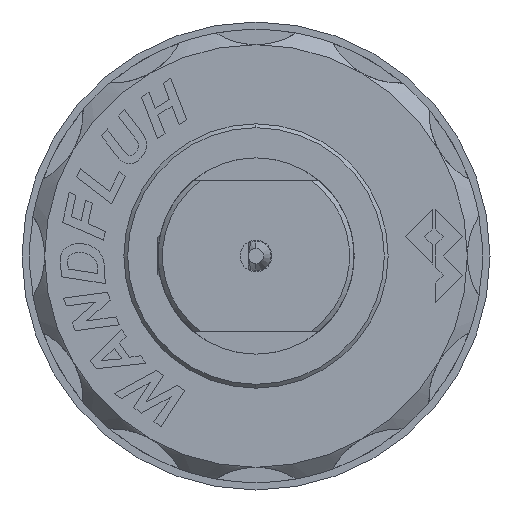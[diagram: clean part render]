
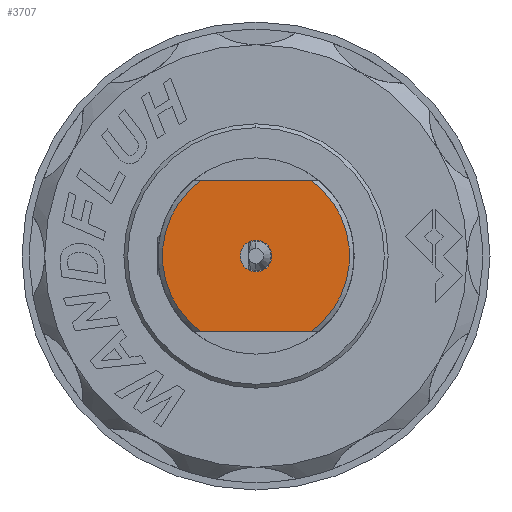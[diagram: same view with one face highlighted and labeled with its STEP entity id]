
A CAD part, left-side view. The second image highlights one B-rep face of the part: STEP entity #3707.
In plain terms, the highlighted planar face has unit normal (-1, 0, 0).
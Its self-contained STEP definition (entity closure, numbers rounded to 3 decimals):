
#368 = ORIENTED_EDGE ( 'NONE', *, *, #7774, .F. ) ;
#919 = CARTESIAN_POINT ( 'NONE',  ( -90.7, 0., 0. ) ) ;
#1121 = CIRCLE ( 'NONE', #19501, 1.05 ) ;
#1345 = LINE ( 'NONE', #1744, #15772 ) ;
#1375 = EDGE_LOOP ( 'NONE', ( #8697, #11638, #14373, #14801 ) ) ;
#1697 = VERTEX_POINT ( 'NONE', #11723 ) ;
#1744 = CARTESIAN_POINT ( 'NONE',  ( -90.7, 6.5, 5. ) ) ;
#1881 = CARTESIAN_POINT ( 'NONE',  ( -90.7, 0., -1.05 ) ) ;
#2008 = CIRCLE ( 'NONE', #9350, 6.2 ) ;
#2704 = EDGE_CURVE ( 'NONE', #16998, #13420, #5752, .T. ) ;
#3614 = CARTESIAN_POINT ( 'NONE',  ( -90.7, 0., 0. ) ) ;
#3707 = ADVANCED_FACE ( 'NONE', ( #22710, #20821 ), #24981, .F. ) ;
#3827 = EDGE_CURVE ( 'NONE', #24879, #14558, #1345, .T. ) ;
#3873 = AXIS2_PLACEMENT_3D ( 'NONE', #3614, #17609, #21396 ) ;
#4608 = DIRECTION ( 'NONE',  ( -1., 0., 0. ) ) ;
#4872 = VERTEX_POINT ( 'NONE', #1881 ) ;
#4967 = DIRECTION ( 'NONE',  ( -1., 0., 0. ) ) ;
#5677 = EDGE_CURVE ( 'NONE', #13420, #14558, #6777, .T. ) ;
#5710 = DIRECTION ( 'NONE',  ( 0., -1., 0. ) ) ;
#5752 = LINE ( 'NONE', #13858, #24245 ) ;
#6777 = CIRCLE ( 'NONE', #15831, 6.2 ) ;
#7774 = EDGE_CURVE ( 'NONE', #4872, #1697, #18300, .T. ) ;
#7872 = DIRECTION ( 'NONE',  ( 0., -1., 0. ) ) ;
#8697 = ORIENTED_EDGE ( 'NONE', *, *, #2704, .T. ) ;
#8904 = DIRECTION ( 'NONE',  ( 0., 0., -1. ) ) ;
#9350 = AXIS2_PLACEMENT_3D ( 'NONE', #14296, #22513, #14462 ) ;
#11638 = ORIENTED_EDGE ( 'NONE', *, *, #5677, .T. ) ;
#11723 = CARTESIAN_POINT ( 'NONE',  ( -90.7, 0., 1.05 ) ) ;
#13420 = VERTEX_POINT ( 'NONE', #17642 ) ;
#13858 = CARTESIAN_POINT ( 'NONE',  ( -90.7, 6.5, -5. ) ) ;
#14101 = AXIS2_PLACEMENT_3D ( 'NONE', #16559, #4608, #18583 ) ;
#14296 = CARTESIAN_POINT ( 'NONE',  ( -90.7, 0., 0. ) ) ;
#14373 = ORIENTED_EDGE ( 'NONE', *, *, #3827, .F. ) ;
#14462 = DIRECTION ( 'NONE',  ( 0., 0., -1. ) ) ;
#14558 = VERTEX_POINT ( 'NONE', #14749 ) ;
#14749 = CARTESIAN_POINT ( 'NONE',  ( -90.7, -3.666, 5. ) ) ;
#14801 = ORIENTED_EDGE ( 'NONE', *, *, #19311, .T. ) ;
#15099 = EDGE_CURVE ( 'NONE', #1697, #4872, #1121, .T. ) ;
#15772 = VECTOR ( 'NONE', #5710, 1000. ) ;
#15831 = AXIS2_PLACEMENT_3D ( 'NONE', #919, #4967, #8904 ) ;
#16301 = ORIENTED_EDGE ( 'NONE', *, *, #15099, .F. ) ;
#16559 = CARTESIAN_POINT ( 'NONE',  ( -90.7, 0., 0. ) ) ;
#16631 = CARTESIAN_POINT ( 'NONE',  ( -90.7, 0., 0. ) ) ;
#16998 = VERTEX_POINT ( 'NONE', #18014 ) ;
#17609 = DIRECTION ( 'NONE',  ( 1., 0., 0. ) ) ;
#17642 = CARTESIAN_POINT ( 'NONE',  ( -90.7, -3.666, -5. ) ) ;
#18014 = CARTESIAN_POINT ( 'NONE',  ( -90.7, 3.666, -5. ) ) ;
#18300 = CIRCLE ( 'NONE', #14101, 1.05 ) ;
#18583 = DIRECTION ( 'NONE',  ( 0., 0., 1. ) ) ;
#18656 = DIRECTION ( 'NONE',  ( -1., 0., 0. ) ) ;
#19311 = EDGE_CURVE ( 'NONE', #24879, #16998, #2008, .T. ) ;
#19501 = AXIS2_PLACEMENT_3D ( 'NONE', #16631, #18656, #22703 ) ;
#20821 = FACE_OUTER_BOUND ( 'NONE', #1375, .T. ) ;
#21396 = DIRECTION ( 'NONE',  ( 0., 0., -1. ) ) ;
#21650 = EDGE_LOOP ( 'NONE', ( #16301, #368 ) ) ;
#22513 = DIRECTION ( 'NONE',  ( -1., 0., 0. ) ) ;
#22703 = DIRECTION ( 'NONE',  ( 0., 0., 1. ) ) ;
#22710 = FACE_BOUND ( 'NONE', #21650, .T. ) ;
#24245 = VECTOR ( 'NONE', #7872, 1000. ) ;
#24879 = VERTEX_POINT ( 'NONE', #25318 ) ;
#24981 = PLANE ( 'NONE',  #3873 ) ;
#25318 = CARTESIAN_POINT ( 'NONE',  ( -90.7, 3.666, 5. ) ) ;
